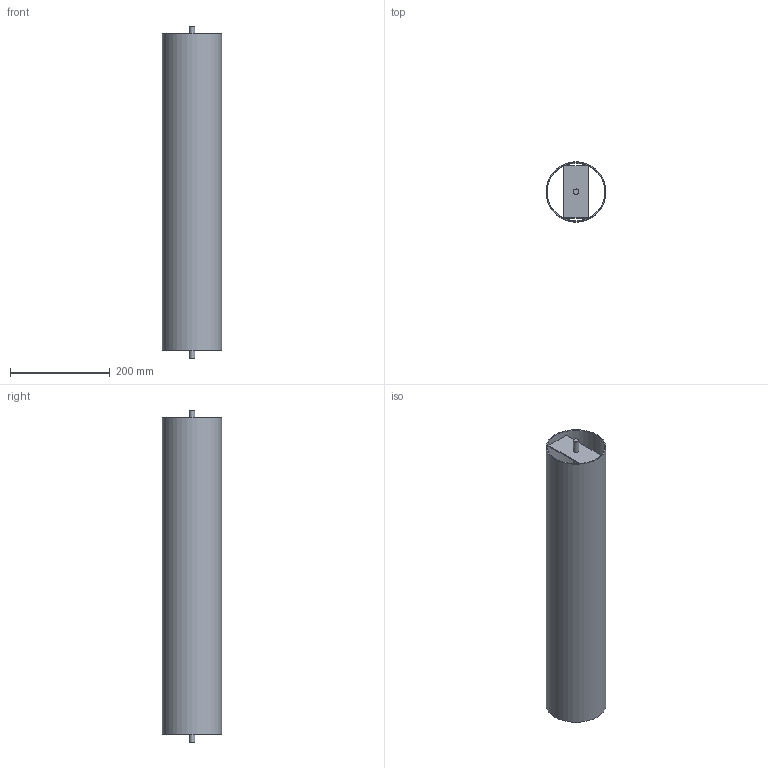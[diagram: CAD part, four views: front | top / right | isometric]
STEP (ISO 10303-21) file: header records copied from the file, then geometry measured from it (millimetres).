
FILE_DESCRIPTION( ( 'STEP AP214' ), '1' );
FILE_NAME( 'D:/Yug/2021/Delta/desk_and_office_organisation/QC/45823.stp', '2021-01-20T06:06:32', ( '' ), ( '' ), ' ', 'PARTsolutions', ' ' );
FILE_SCHEMA( ( 'AUTOMOTIVE_DESIGN { 1 0 10303 214 1 1 1 1 }' ) );
Length unit declared in the file: millimetre
Products named in the file (1): _45823
Bounding box: 120 x 120 x 666 mm (x, y, z)
Volume: 553909.6 mm3; surface area: 516403.8 mm2
Topology: 1 solids, 1 shells, 21 faces, 63 edges, 42 vertices
Faces by surface type: plane 16, cylinder 5
Full cylindrical faces by diameter (mm): 11 x3, 116 x1, 120 x1
Entity records: 914 total; most frequent: DIRECTION 128, CARTESIAN_POINT 122, ORIENTED_EDGE 116, EDGE_CURVE 58, AXIS2_PLACEMENT_3D 48, VERTEX_POINT 42, EDGE_LOOP 40, LINE 32
